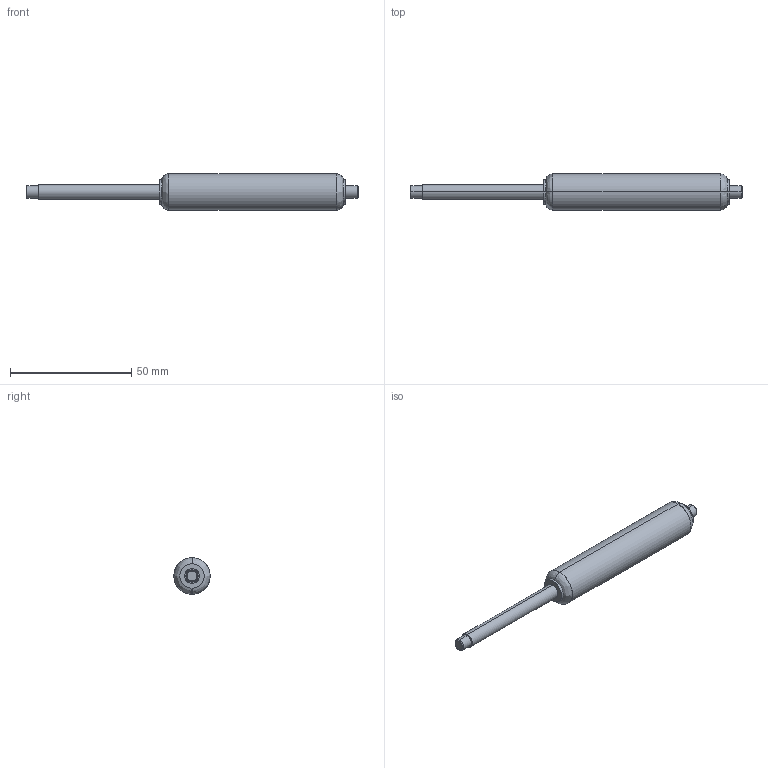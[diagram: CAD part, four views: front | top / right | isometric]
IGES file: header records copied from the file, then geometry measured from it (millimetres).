
Start section: SolidWorks IGES file using analytic representation for surfaces
Bounding box: 137 x 15 x 15 mm (x, y, z)
Surface area: 4916.8 mm2 (no closed solid volume)
Topology: 0 solids, 0 shells, 25 faces, 336 edges, 336 vertices
Faces by surface type: revolution 16, bspline 9
